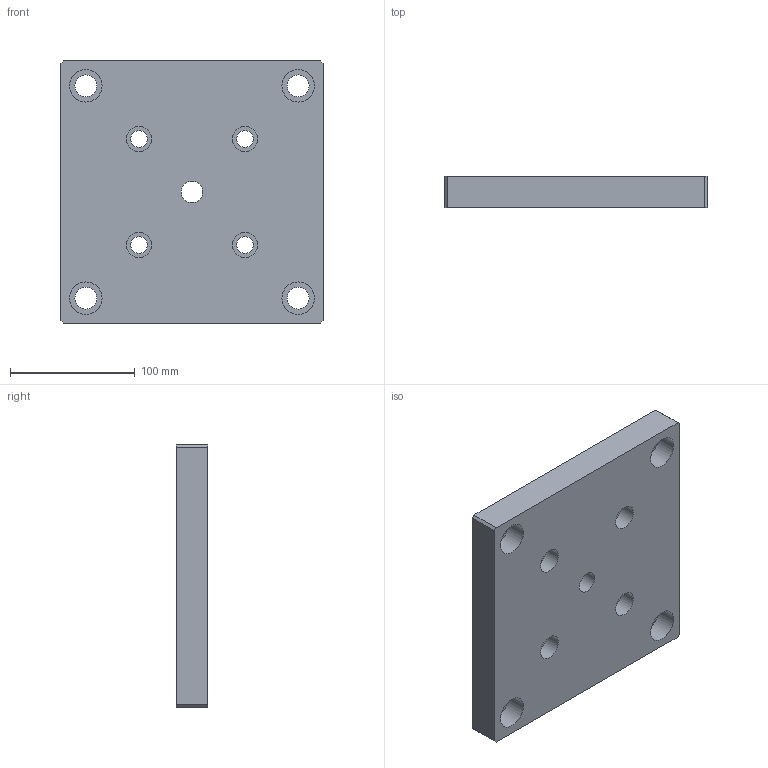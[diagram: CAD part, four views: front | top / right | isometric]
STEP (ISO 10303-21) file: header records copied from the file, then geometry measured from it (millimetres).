
FILE_DESCRIPTION(/* description */ (''),/* implementation_level */ '2;1');
FILE_NAME(/* name */ 'C:\Users\Jefferson\Desktop\Biblioteca Pro Nitro 2024\Flanges\PNB-56-XXX\PNB-56-195.stp',/* time_stamp */ '2024-01-29T14:24:33-03:00',/* author */ ('Jefferson'),/* organization */ (''),/* preprocessor_version */ 'ST-DEVELOPER v18.1',/* originating_system */ 'Autodesk Inventor 2021',/* authorisation */ '');
FILE_SCHEMA (('AUTOMOTIVE_DESIGN { 1 0 10303 214 3 1 1 }'));
Length unit declared in the file: millimetre
Products named in the file (1): PNB-56-195
Bounding box: 210 x 25 x 210 mm (x, y, z)
Volume: 1029409.5 mm3; surface area: 119532.1 mm2
Topology: 1 solids, 1 shells, 201 faces, 545 edges, 369 vertices
Faces by surface type: plane 97, bspline 87, cylinder 17
Full cylindrical faces by diameter (mm): 13.5 x4, 17.294 x1, 17.5 x4, 20 x4, 26 x4
Entity records: 6865 total; most frequent: CARTESIAN_POINT 2247, ORIENTED_EDGE 1090, DIRECTION 652, EDGE_CURVE 545, VERTEX_POINT 369, LINE 320, VECTOR 320, EDGE_LOOP 242
